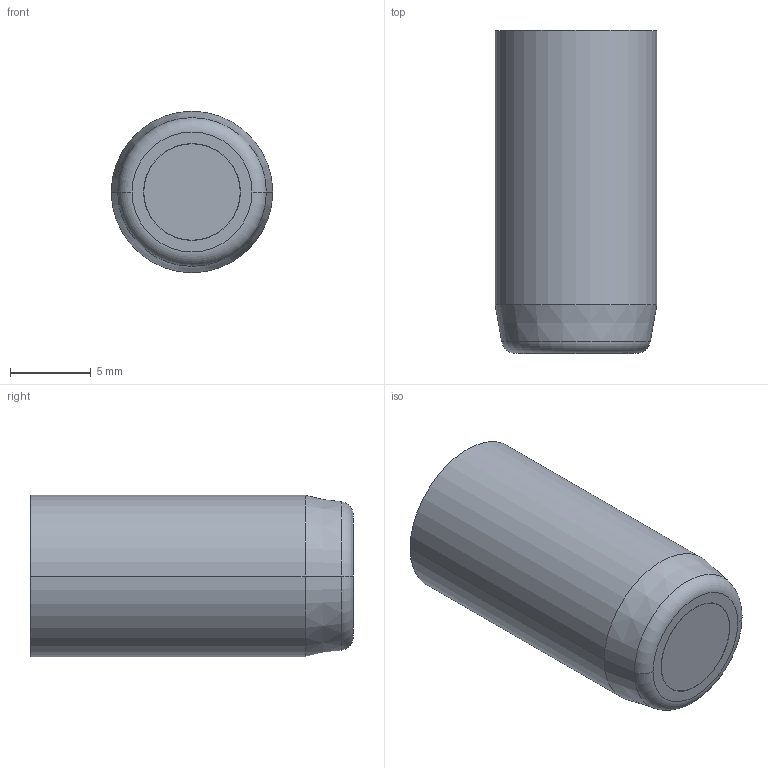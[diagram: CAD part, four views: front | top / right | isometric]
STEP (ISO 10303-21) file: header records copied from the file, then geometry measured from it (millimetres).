
FILE_DESCRIPTION (( 'STEP AP214' ), '1' );
FILE_NAME ('FA 105712-21.STEP', '2020-08-11T09:26:57', ( '' ), ( '' ), 'SwSTEP 2.0', 'SolidWorks 2019', '' );
FILE_SCHEMA (( 'AUTOMOTIVE_DESIGN' ));
Length unit declared in the file: millimetre
Products named in the file (6): FA 105712-21; DFA 105700-1; DIA 571714; DFA 105700-3; DFA 084700-2 comprimido; D9FA 105712
Assembly tree (5 placements, depth 2):
  FA 105712-21
    D9FA 105712
    DFA 105700-1
    DIA 571714
    DFA 105700-3
    DFA 084700-2 comprimido
Bounding box: 10 x 20 x 10 mm (x, y, z)
Volume: 1392.6 mm3; surface area: 1750.4 mm2
Topology: 5 solids, 5 shells, 333 faces, 845 edges, 550 vertices
Faces by surface type: plane 150, cylinder 132, cone 24, bspline 13, torus 12, sphere 2
Entity records: 12263 total; most frequent: CARTESIAN_POINT 3791, DIRECTION 1757, ORIENTED_EDGE 1686, EDGE_CURVE 843, AXIS2_PLACEMENT_3D 644, VERTEX_POINT 550, LINE 469, VECTOR 469
